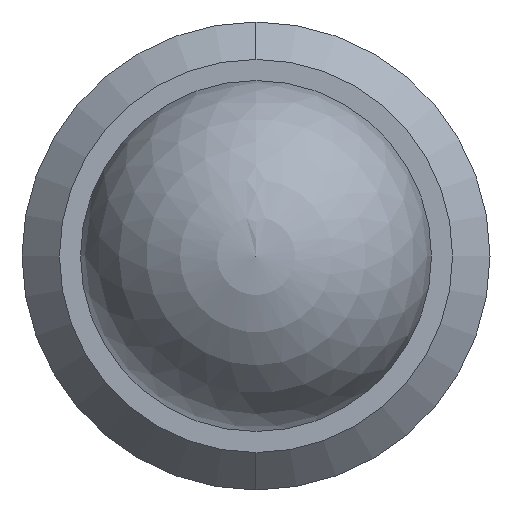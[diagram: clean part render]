
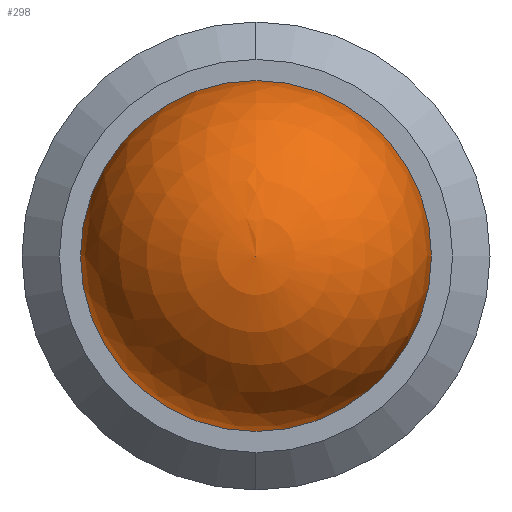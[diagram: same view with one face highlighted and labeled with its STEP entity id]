
A CAD part, left-side view. The second image highlights one B-rep face of the part: STEP entity #298.
In plain terms, the highlighted spherical face has radius 2.381 mm.
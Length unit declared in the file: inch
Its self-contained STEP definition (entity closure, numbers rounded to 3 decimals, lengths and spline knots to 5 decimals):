
#4 = DIRECTION ( 'NONE',  ( 0., 0., -1. ) ) ;
#5 = AXIS2_PLACEMENT_3D ( 'NONE', #562, #433, #564 ) ;
#119 = DIRECTION ( 'NONE',  ( -1., 0., 0. ) ) ;
#172 = CIRCLE ( 'NONE', #340, 0.09375 ) ;
#195 = ORIENTED_EDGE ( 'NONE', *, *, #448, .F. ) ;
#203 = CIRCLE ( 'NONE', #403, 0.09375 ) ;
#250 = SPHERICAL_SURFACE ( 'NONE', #5, 0.09375 ) ;
#253 = FACE_OUTER_BOUND ( 'NONE', #595, .T. ) ;
#289 = CARTESIAN_POINT ( 'NONE',  ( 0., 0.09375, 0. ) ) ;
#298 = ADVANCED_FACE ( 'NONE', ( #253 ), #250, .T. ) ;
#309 = DIRECTION ( 'NONE',  ( 1., 0., 0. ) ) ;
#340 = AXIS2_PLACEMENT_3D ( 'NONE', #593, #309, #4 ) ;
#363 = ORIENTED_EDGE ( 'NONE', *, *, #578, .T. ) ;
#388 = VERTEX_POINT ( 'NONE', #480 ) ;
#399 = VERTEX_POINT ( 'NONE', #289 ) ;
#403 = AXIS2_PLACEMENT_3D ( 'NONE', #426, #119, #468 ) ;
#426 = CARTESIAN_POINT ( 'NONE',  ( 0., 0., 0. ) ) ;
#433 = DIRECTION ( 'NONE',  ( -1., 0., 0. ) ) ;
#448 = EDGE_CURVE ( 'NONE', #399, #388, #172, .T. ) ;
#468 = DIRECTION ( 'NONE',  ( 0., 0., 1. ) ) ;
#480 = CARTESIAN_POINT ( 'NONE',  ( 0., -0.09375, 0. ) ) ;
#562 = CARTESIAN_POINT ( 'NONE',  ( 0., 0., 0. ) ) ;
#564 = DIRECTION ( 'NONE',  ( 0., 0., 1. ) ) ;
#578 = EDGE_CURVE ( 'NONE', #399, #388, #203, .T. ) ;
#593 = CARTESIAN_POINT ( 'NONE',  ( 0., 0., 0. ) ) ;
#595 = EDGE_LOOP ( 'NONE', ( #195, #363 ) ) ;
